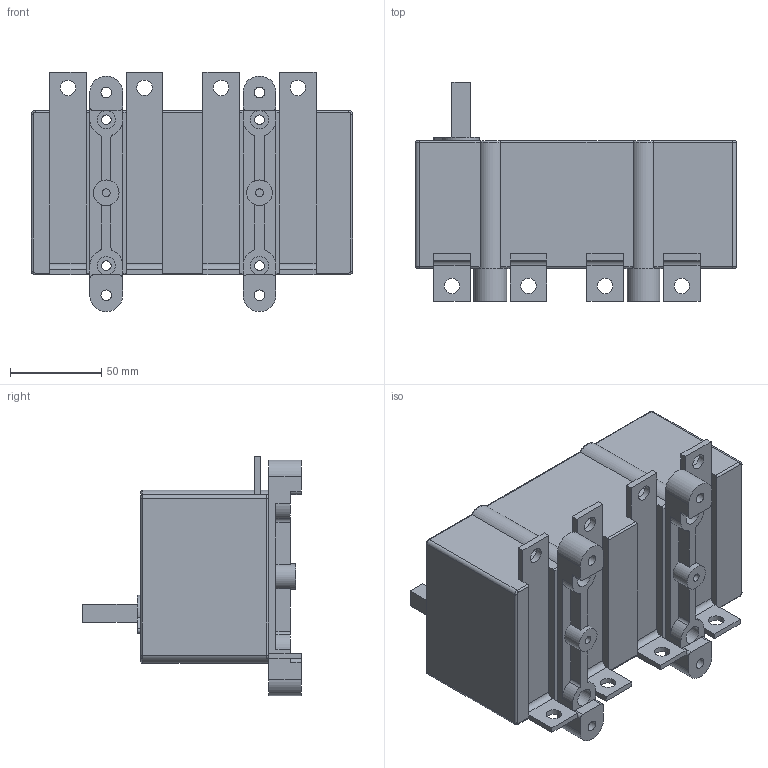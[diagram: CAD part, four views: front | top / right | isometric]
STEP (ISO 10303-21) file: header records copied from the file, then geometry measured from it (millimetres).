
FILE_DESCRIPTION(/* description */ (''),/* implementation_level */ '2;1');
FILE_NAME(/* name */ 'RA250 P3 NB.stp',/* time_stamp */ '2021-08-18T08:22:06+02:00',/* author */ (''),/* organization */ (''),/* preprocessor_version */ 'ST-DEVELOPER v18.1',/* originating_system */ 'SIEMENS PLM Software NX 1965',/* authorisation */ '');
FILE_SCHEMA (('AUTOMOTIVE_DESIGN { 1 0 10303 214 3 1 1 1 }'));
Length unit declared in the file: millimetre
Products named in the file (1): RA250 P3 NB_stp
Bounding box: 176 x 120 x 131.18 mm (x, y, z)
Volume: 1131010.8 mm3; surface area: 99481.5 mm2
Topology: 1 solids, 1 shells, 218 faces, 578 edges, 370 vertices
Faces by surface type: plane 112, cylinder 94, torus 7, bspline 5
Full cylindrical faces by diameter (mm): 4.3 x2, 5.3 x4, 5.8 x4, 8.5 x8, 10 x8, 14 x2
Entity records: 6691 total; most frequent: CARTESIAN_POINT 1274, DIRECTION 1140, ORIENTED_EDGE 1076, EDGE_CURVE 538, AXIS2_PLACEMENT_3D 404, VERTEX_POINT 358, LINE 332, VECTOR 332
